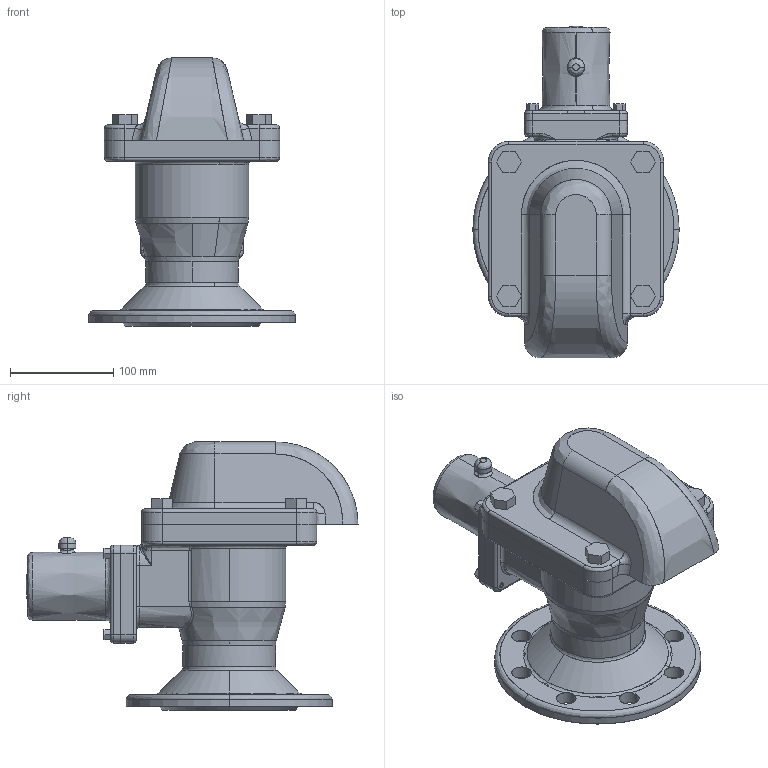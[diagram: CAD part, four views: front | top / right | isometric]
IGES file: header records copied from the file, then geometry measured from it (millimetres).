
Start section: SolidWorks IGES file using analytic representation for surfaces
Global section: file name: C:\Users\Administrator\Desktop\temp\0.IGS; native system: SolidWorks 2015; preprocessor: SolidWorks 2015; author: Administrator; date: 170528.114153; units: millimetre
Bounding box: 200 x 322 x 260 mm (x, y, z)
Surface area: 539581.5 mm2 (no closed solid volume)
Topology: 0 solids, 0 shells, 460 faces, 7882 edges, 7862 vertices
Faces by surface type: bspline 252, revolution 208
